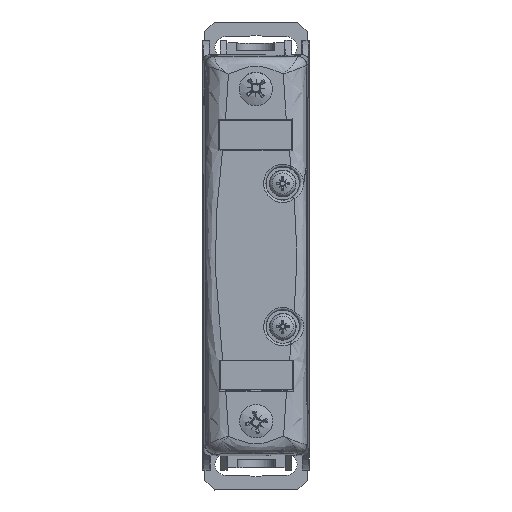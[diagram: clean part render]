
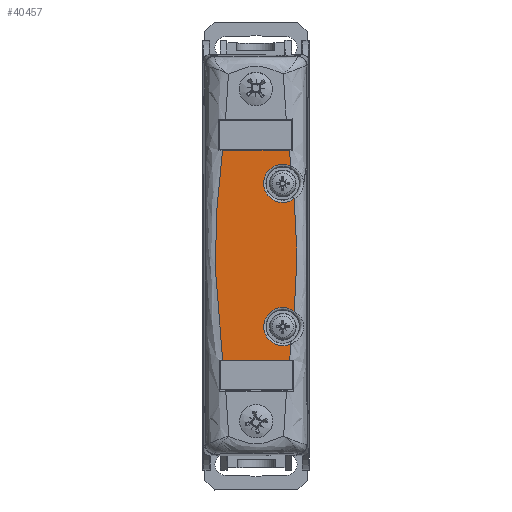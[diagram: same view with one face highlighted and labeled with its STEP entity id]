
A CAD part, top view. The second image highlights one B-rep face of the part: STEP entity #40457.
In plain terms, the highlighted planar face has unit normal (0, 0, 1).
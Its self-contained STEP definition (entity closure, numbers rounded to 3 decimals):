
#36733=CARTESIAN_POINT('',(-7.001,-22.0,14.));
#36734=VERTEX_POINT('',#36733);
#36766=CARTESIAN_POINT('',(7.001,-22.0,14.));
#36767=VERTEX_POINT('',#36766);
#36775=CARTESIAN_POINT('',(-7.001,-22.,14.));
#36776=DIRECTION('',(1.0,0.0,0.0));
#36777=VECTOR('',#36776,14.002);
#36778=LINE('',#36775,#36777);
#36779=EDGE_CURVE('',#36734,#36767,#36778,.T.);
#38593=CARTESIAN_POINT('',(7.001,22.0,14.));
#38594=VERTEX_POINT('',#38593);
#38602=CARTESIAN_POINT('',(7.001,22.,14.));
#38603=CARTESIAN_POINT('',(7.766,14.667,14.));
#38604=CARTESIAN_POINT('',(9.393,0.,14.));
#38605=CARTESIAN_POINT('',(7.766,-14.667,14.));
#38606=CARTESIAN_POINT('',(7.001,-22.,14.));
#38607=B_SPLINE_CURVE_WITH_KNOTS('',3,(#38602,#38603,#38604,#38605,#38606),.UNSPECIFIED.,.F.,.U.,(4,1,4),(2.,4.2,6.4),.UNSPECIFIED.);
#38608=EDGE_CURVE('',#38594,#36767,#38607,.T.);
#40207=CARTESIAN_POINT('',(-7.001,22.0,14.));
#40208=VERTEX_POINT('',#40207);
#40216=CARTESIAN_POINT('',(7.001,22.0,14.));
#40217=DIRECTION('',(-1.0,0.0,0.0));
#40218=VECTOR('',#40217,14.002);
#40219=LINE('',#40216,#40218);
#40220=EDGE_CURVE('',#38594,#40208,#40219,.T.);
#40403=CARTESIAN_POINT('',(11.001,42.001,14.));
#40404=DIRECTION('',(0.0,0.0,-1.0));
#40405=DIRECTION('',(-1.0,0.0,0.0));
#40406=AXIS2_PLACEMENT_3D('',#40403,#40404,#40405);
#40407=PLANE('',#40406);
#40408=ORIENTED_EDGE('',*,*,#36779,.T.);
#40409=ORIENTED_EDGE('',*,*,#38608,.F.);
#40410=ORIENTED_EDGE('',*,*,#40220,.T.);
#40411=CARTESIAN_POINT('',(-7.357,18.594,14.));
#40412=VERTEX_POINT('',#40411);
#40413=CARTESIAN_POINT('',(-7.357,18.594,14.));
#40414=CARTESIAN_POINT('',(-7.239,19.729,14.));
#40415=CARTESIAN_POINT('',(-7.12,20.865,14.));
#40416=CARTESIAN_POINT('',(-7.001,22.,14.));
#40417=B_SPLINE_CURVE_WITH_KNOTS('',3,(#40413,#40414,#40415,#40416),.UNSPECIFIED.,.F.,.U.,(4,4),(1.859,2.2),.UNSPECIFIED.);
#40418=EDGE_CURVE('',#40412,#40208,#40417,.T.);
#40419=ORIENTED_EDGE('',*,*,#40418,.F.);
#40420=CARTESIAN_POINT('',(-8.01,11.807,14.));
#40421=VERTEX_POINT('',#40420);
#40422=CARTESIAN_POINT('',(-5.6,15.,14.));
#40423=DIRECTION('',(0.0,0.0,1.0));
#40424=DIRECTION('',(0.995,-0.096,0.0));
#40425=AXIS2_PLACEMENT_3D('',#40422,#40423,#40424);
#40426=CIRCLE('',#40425,4.0);
#40427=EDGE_CURVE('',#40421,#40412,#40426,.T.);
#40428=ORIENTED_EDGE('',*,*,#40427,.F.);
#40429=CARTESIAN_POINT('',(-8.01,-11.807,14.));
#40430=VERTEX_POINT('',#40429);
#40431=CARTESIAN_POINT('',(-8.01,-11.807,14.));
#40432=CARTESIAN_POINT('',(-8.345,-7.872,14.));
#40433=CARTESIAN_POINT('',(-8.814,0.,14.));
#40434=CARTESIAN_POINT('',(-8.345,7.872,14.));
#40435=CARTESIAN_POINT('',(-8.01,11.807,14.));
#40436=B_SPLINE_CURVE_WITH_KNOTS('',3,(#40431,#40432,#40433,#40434,#40435),.UNSPECIFIED.,.F.,.U.,(4,1,4),(-1.181,0.,1.181),.UNSPECIFIED.);
#40437=EDGE_CURVE('',#40430,#40421,#40436,.T.);
#40438=ORIENTED_EDGE('',*,*,#40437,.F.);
#40439=CARTESIAN_POINT('',(-7.357,-18.594,14.));
#40440=VERTEX_POINT('',#40439);
#40441=CARTESIAN_POINT('',(-5.6,-15.,14.));
#40442=DIRECTION('',(0.0,0.0,1.));
#40443=DIRECTION('',(0.995,0.096,0.0));
#40444=AXIS2_PLACEMENT_3D('',#40441,#40442,#40443);
#40445=CIRCLE('',#40444,4.0);
#40446=EDGE_CURVE('',#40440,#40430,#40445,.T.);
#40447=ORIENTED_EDGE('',*,*,#40446,.F.);
#40448=CARTESIAN_POINT('',(-7.001,-22.,14.));
#40449=CARTESIAN_POINT('',(-7.12,-20.865,14.));
#40450=CARTESIAN_POINT('',(-7.239,-19.729,14.));
#40451=CARTESIAN_POINT('',(-7.357,-18.594,14.));
#40452=B_SPLINE_CURVE_WITH_KNOTS('',3,(#40448,#40449,#40450,#40451),.UNSPECIFIED.,.F.,.U.,(4,4),(-2.2,-1.859),.UNSPECIFIED.);
#40453=EDGE_CURVE('',#36734,#40440,#40452,.T.);
#40454=ORIENTED_EDGE('',*,*,#40453,.F.);
#40455=EDGE_LOOP('',(#40408,#40409,#40410,#40419,#40428,#40438,#40447,#40454));
#40456=FACE_OUTER_BOUND('',#40455,.T.);
#40457=ADVANCED_FACE('',(#40456),#40407,.F.);
